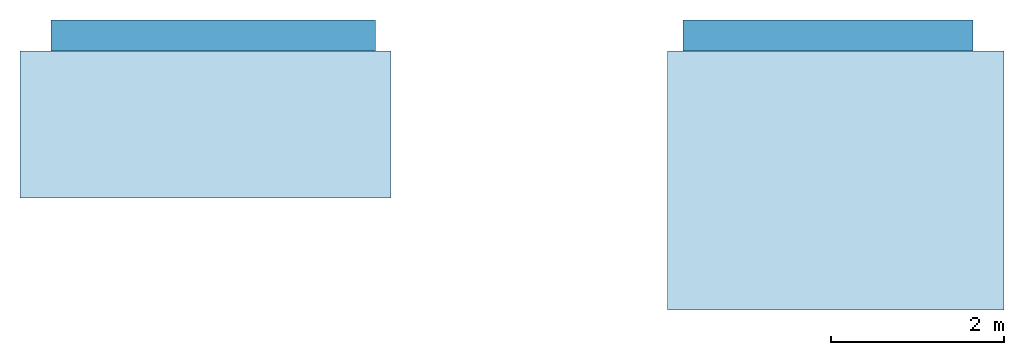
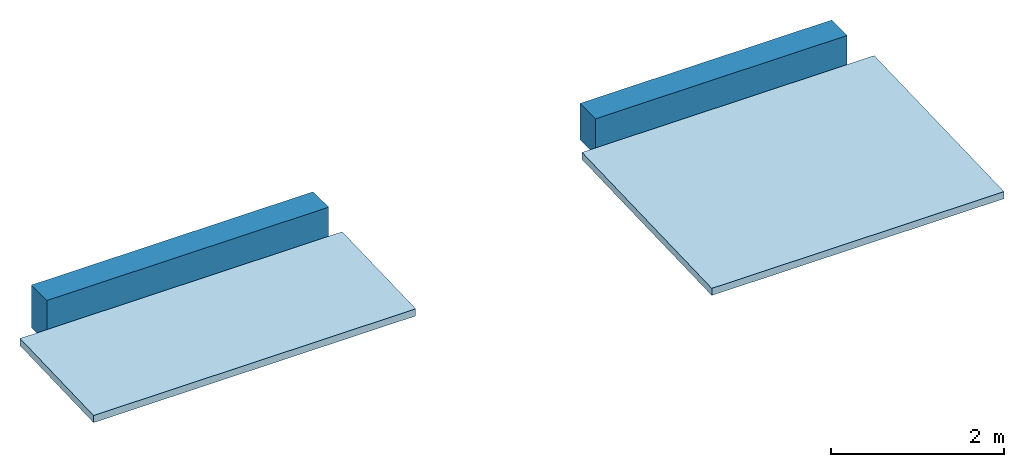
# One storey: 2 slabs, 2 walls, 2 elements without a shape of their own.
"""IFC2X3 building model written with IfcOpenShell, lengths in centimetres."""

from ifc_helpers import new_model, entity, si_unit, converted_unit, derived_unit, direction, frame, frame_2d, origin, place, context, subcontext, project, spatial, rectangle, extrude, faceted_brep, material, layer, layer_set, type_object, element, aggregate, save


model = new_model("IFC2X3")

# Units and contexts
model_context = context("Model", 3, precision=0.001, world=origin(), true_north=direction((6.123031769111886e-17, 1.0)))
body_context = subcontext(model_context, "Body", "Model", "MODEL_VIEW")
ifc_project = project(units=[si_unit("LENGTHUNIT", "METRE", prefix="CENTI"), si_unit("AREAUNIT", "SQUARE_METRE"), si_unit("VOLUMEUNIT", "CUBIC_METRE"), converted_unit("PLANEANGLEUNIT", "DEGREE", entity("IfcRatioMeasure", 0.017453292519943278), si_unit("PLANEANGLEUNIT", "RADIAN"), dimensions=[0, 0, 0, 0, 0, 0, 0]), si_unit("MASSUNIT", "GRAM", prefix="KILO"), derived_unit("MASSDENSITYUNIT", [(si_unit("MASSUNIT", "GRAM", prefix="KILO"), 1), (si_unit("LENGTHUNIT", "METRE"), -3)]), derived_unit("MOMENTOFINERTIAUNIT", [(si_unit("LENGTHUNIT", "METRE"), 4)]), si_unit("TIMEUNIT", "SECOND"), si_unit("FREQUENCYUNIT", "HERTZ"), si_unit("THERMODYNAMICTEMPERATUREUNIT", "DEGREE_CELSIUS"), derived_unit("THERMALTRANSMITTANCEUNIT", [(si_unit("MASSUNIT", "GRAM", prefix="KILO"), 1), (si_unit("THERMODYNAMICTEMPERATUREUNIT", "KELVIN"), -1), (si_unit("TIMEUNIT", "SECOND"), -3)]), derived_unit("THERMALCONDUCTANCEUNIT", [(si_unit("MASSUNIT", "GRAM", prefix="KILO"), 1), (si_unit("LENGTHUNIT", "METRE"), 1), (si_unit("THERMODYNAMICTEMPERATUREUNIT", "KELVIN"), -1), (si_unit("TIMEUNIT", "SECOND"), -3)]), derived_unit("VOLUMETRICFLOWRATEUNIT", [(si_unit("LENGTHUNIT", "METRE"), 3), (si_unit("TIMEUNIT", "SECOND"), -1)]), derived_unit("MASSFLOWRATEUNIT", [(si_unit("MASSUNIT", "GRAM", prefix="KILO"), 1), (si_unit("TIMEUNIT", "SECOND"), -1)]), derived_unit("ROTATIONALFREQUENCYUNIT", [(si_unit("TIMEUNIT", "SECOND"), -1)]), si_unit("ELECTRICCURRENTUNIT", "AMPERE"), si_unit("ELECTRICVOLTAGEUNIT", "VOLT"), si_unit("POWERUNIT", "WATT"), si_unit("FORCEUNIT", "NEWTON", prefix="KILO"), si_unit("ILLUMINANCEUNIT", "LUX"), si_unit("LUMINOUSFLUXUNIT", "LUMEN"), si_unit("LUMINOUSINTENSITYUNIT", "CANDELA"), derived_unit("USERDEFINED", [(si_unit("MASSUNIT", "GRAM", prefix="KILO"), -1), (si_unit("LENGTHUNIT", "METRE"), -2), (si_unit("TIMEUNIT", "SECOND"), 3), (si_unit("LUMINOUSFLUXUNIT", "LUMEN"), 1)]), derived_unit("USERDEFINED", [(si_unit("MASSUNIT", "GRAM", prefix="KILO"), 1), (si_unit("LENGTHUNIT", "METRE"), 3), (si_unit("TIMEUNIT", "SECOND"), -3), (si_unit("ELECTRICCURRENTUNIT", "AMPERE"), -2)]), derived_unit("USERDEFINED", [(si_unit("LENGTHUNIT", "METRE"), 2), (si_unit("TIMEUNIT", "SECOND"), -2)]), derived_unit("SOUNDPOWERUNIT", [(si_unit("MASSUNIT", "GRAM", prefix="KILO"), 1), (si_unit("LENGTHUNIT", "METRE"), 2), (si_unit("TIMEUNIT", "SECOND"), -3)]), derived_unit("SOUNDPRESSUREUNIT", [(si_unit("MASSUNIT", "GRAM", prefix="KILO"), 1), (si_unit("LENGTHUNIT", "METRE"), -1), (si_unit("TIMEUNIT", "SECOND"), -2)]), derived_unit("LINEARVELOCITYUNIT", [(si_unit("LENGTHUNIT", "METRE"), 1), (si_unit("TIMEUNIT", "SECOND"), -1)]), si_unit("PRESSUREUNIT", "PASCAL"), derived_unit("USERDEFINED", [(si_unit("LENGTHUNIT", "METRE"), -2), (si_unit("MASSUNIT", "GRAM", prefix="KILO"), 1), (si_unit("TIMEUNIT", "SECOND"), -2)]), derived_unit("LINEARFORCEUNIT", [(si_unit("MASSUNIT", "GRAM", prefix="KILO"), 1), (si_unit("LENGTHUNIT", "METRE"), 1), (si_unit("TIMEUNIT", "SECOND"), -2), (si_unit("LENGTHUNIT", "METRE"), -1)]), derived_unit("PLANARFORCEUNIT", [(si_unit("MASSUNIT", "GRAM", prefix="KILO"), 1), (si_unit("LENGTHUNIT", "METRE"), 1), (si_unit("TIMEUNIT", "SECOND"), -2), (si_unit("LENGTHUNIT", "METRE"), -2)]), derived_unit("SPECIFICHEATCAPACITYUNIT", [(si_unit("LENGTHUNIT", "METRE"), 2), (si_unit("TIMEUNIT", "SECOND"), -2), (si_unit("THERMODYNAMICTEMPERATUREUNIT", "KELVIN"), -1)]), derived_unit("VAPORPERMEABILITYUNIT", [(si_unit("TIMEUNIT", "SECOND"), 1), (si_unit("LENGTHUNIT", "METRE"), -1)]), derived_unit("DYNAMICVISCOSITYUNIT", [(si_unit("MASSUNIT", "GRAM", prefix="KILO"), 1), (si_unit("LENGTHUNIT", "METRE"), -1), (si_unit("TIMEUNIT", "SECOND"), -1)]), derived_unit("THERMALEXPANSIONCOEFFICIENTUNIT", [(si_unit("THERMODYNAMICTEMPERATUREUNIT", "KELVIN"), -1)])], contexts=[model_context])

# Site, building, storey
site_placement = place(None, origin())
site = spatial("IfcSite", under=ifc_project, at=site_placement, Name="Default", CompositionType="ELEMENT")
building_placement = place(site_placement, origin())
building = spatial("IfcBuilding", under=site, at=building_placement, CompositionType="ELEMENT")
storey_placement = place(building_placement, frame((0.0, 0.0, 290.0)))
storey = spatial("IfcBuildingStorey", under=building, at=storey_placement, Name="x_Arase étanchéité", CompositionType="ELEMENT", Elevation=290.0)

# Roof, slab
ifc_material_1 = material(Name="Asphalte, bitume(1)")
ifc_layer_1 = layer(ifc_material_1, 10.0)
ifc_layer_set_1 = layer_set([ifc_layer_1], Name="Toit de base:Toit plat - 100 mm")
roof_1_placement = place(storey_placement, frame((27.931556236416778, -821.353354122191, -1.0055540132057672)))
roof_1 = element("IfcRoof", 1, at=roof_1_placement, inside=storey, material=ifc_layer_set_1, Name="Toit de base:Toit plat - 100 mm", ObjectType="Toit de base:Toit plat - 100 mm", ShapeType="NOTDEFINED")
slab_type = type_object("IfcSlabType", Name="Toit de base:Toit plat - 100 mm", PredefinedType="ROOF")
slab_1_placement = place(roof_1_placement, origin())
slab_1 = element("IfcSlab", 2, at=slab_1_placement, type_object=slab_type, material=ifc_layer_set_1, Name="Toit de base:Toit plat - 100 mm", ObjectType="Toit de base:Toit plat - 100 mm", PredefinedType="ROOF", context=body_context, shape_type="SweptSolid", body=[
    extrude(rectangle(XDim=390.0000000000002, YDim=300.1666203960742, at=frame_2d((0.0, -9.947598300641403e-14), x_axis=(-1.0, 0.0))), frame((195.0, 150.0, 5.0), z_axis=(0.0, -0.03331483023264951, 0.9994449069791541), x_axis=(1.0, 0.0, 0.0)), (0.0, 0.03331483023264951, 0.9994449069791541), 10.005554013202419),
])
aggregate(roof_1, [slab_1])

roof_2_placement = place(storey_placement, frame((-722.0684437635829, -691.3533541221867, 3.327779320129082)))
roof_2 = element("IfcRoof", 3, at=roof_2_placement, inside=storey, material=ifc_layer_set_1, Name="Toit de base:Toit plat - 100 mm", ObjectType="Toit de base:Toit plat - 100 mm", ShapeType="NOTDEFINED")
slab_2_placement = place(roof_2_placement, origin())
slab_2 = element("IfcSlab", 4, at=slab_2_placement, type_object=slab_type, material=ifc_layer_set_1, Name="Toit de base:Toit plat - 100 mm", ObjectType="Toit de base:Toit plat - 100 mm", PredefinedType="ROOF", context=body_context, shape_type="SweptSolid", body=[
    extrude(rectangle(XDim=430.0000000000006, YDim=170.09441822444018, at=frame_2d((2.842170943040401e-14, -6.394884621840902e-14), x_axis=(-1.0, 0.0))), frame((215.0, 85.0, 2.833333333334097), z_axis=(0.0, -0.033314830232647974, 0.999444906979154), x_axis=(1.0, 0.0, 0.0)), (0.0, 0.033314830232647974, 0.999444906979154), 10.005554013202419),
])
aggregate(roof_2, [slab_2])

# Walls
ifc_material_2 = material(Name="Maçonnerie - Enduit")
ifc_layer_2 = layer(ifc_material_2, 2.0)
ifc_material_3 = material(Name="Maçonnerie - Béton")
ifc_layer_3 = layer(ifc_material_3, 20.0)
ifc_material_4 = material(Name="Mur par défaut")
ifc_layer_4 = layer(ifc_material_4, 14.0)
ifc_layer_set_2 = layer_set([ifc_layer_2, ifc_layer_3, ifc_layer_4], Name="Mur de base:Mur extérieur 36cm")
wall_type = type_object("IfcWallType", Name="Mur de base:Mur extérieur 36cm", PredefinedType="STANDARD", material=ifc_layer_set_2)
wall_1_placement = place(storey_placement, frame((45.93155623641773, -503.35335412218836, 0.0)))
element("IfcWall", 5, at=wall_1_placement, inside=storey, type_object=wall_type, Name="Mur de base:Mur extérieur 36cm", ObjectType="Mur de base:Mur extérieur 36cm", context=body_context, shape_type="Brep", body=[
    faceted_brep([(18.0, -18.0, 0.0), (336.0, -18.0, 0.0), (336.0, -18.0, 60.0), (0.0, -18.0, 60.0), (0.0, -18.0, 8.994445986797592), (18.0, -18.0, 8.994445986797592), (18.0, 18.0, 0.0), (18.0, 18.0, 8.994445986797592), (0.0, 18.0, 8.994445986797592), (0.0, 18.0, 60.0), (336.0, 18.0, 60.0), (336.0, 18.0, 0.0)], [[[0, 1, 2, 3, 4, 5]], [[6, 7, 8, 9, 10, 11]], [[1, 0, 6, 11]], [[3, 2, 10, 9]], [[2, 1, 11, 10]], [[4, 3, 9, 8]], [[4, 8, 7, 5]], [[0, 5, 7, 6]]]),
])
wall_2_placement = place(storey_placement, frame((-310.0684437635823, -503.3533541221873, 0.0), z_axis=(0.0, 0.0, 1.0), x_axis=(-1.0, 0.0, 0.0)))
element("IfcWall", 6, at=wall_2_placement, inside=storey, type_object=wall_type, Name="Mur de base:Mur extérieur 36cm", ObjectType="Mur de base:Mur extérieur 36cm", context=body_context, shape_type="Brep", body=[
    faceted_brep([(18.0, -18.0, 0.0), (376.0, -18.0, 0.0), (376.0, -18.0, 60.0), (0.0, -18.0, 60.0), (0.0, -18.0, 8.994445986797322), (18.0, -18.0, 8.994445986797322), (18.0, 18.0, 0.0), (18.0, 18.0, 8.994445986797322), (0.0, 18.0, 8.994445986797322), (0.0, 18.0, 60.0), (376.0, 18.0, 60.0), (376.0, 18.0, 0.0)], [[[0, 1, 2, 3, 4, 5]], [[6, 7, 8, 9, 10, 11]], [[1, 0, 6, 11]], [[3, 2, 10, 9]], [[2, 1, 11, 10]], [[4, 3, 9, 8]], [[4, 8, 7, 5]], [[0, 5, 7, 6]]]),
])

save(model, "model.ifc")
